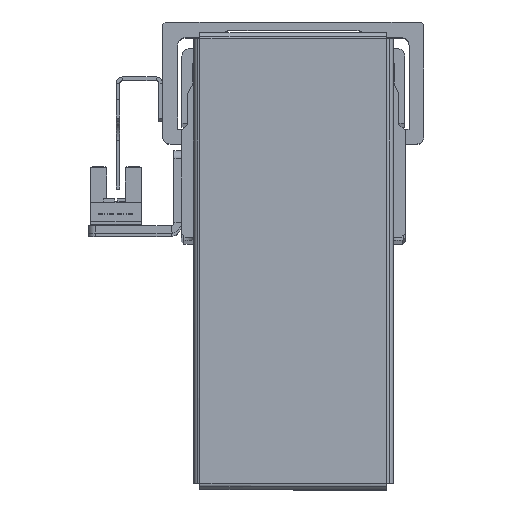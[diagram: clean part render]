
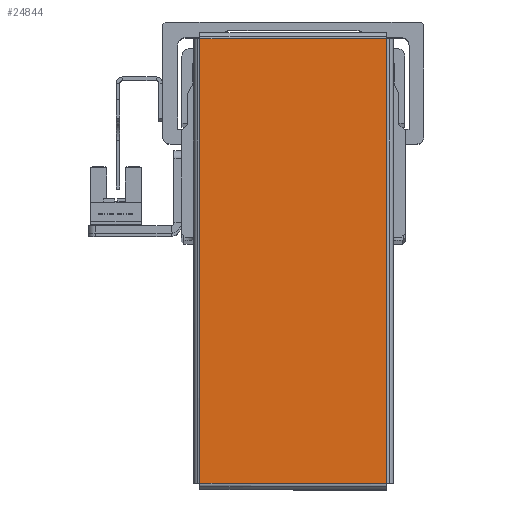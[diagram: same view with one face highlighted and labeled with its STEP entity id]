
A CAD part, top view. The second image highlights one B-rep face of the part: STEP entity #24844.
In plain terms, the highlighted planar face has unit normal (0, 0, 1) as drawn and (0, 0, -1) by its records, which use the part's own axes.
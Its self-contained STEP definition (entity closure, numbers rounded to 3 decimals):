
#2351 = PLANE ( 'NONE',  #31090 ) ;
#2357 = CARTESIAN_POINT ( 'NONE',  ( 0., 0., -1. ) ) ;
#2373 = DIRECTION ( 'NONE',  ( 1., 0., 0. ) ) ;
#2393 = DIRECTION ( 'NONE',  ( 0., 0., 1. ) ) ;
#4229 = DIRECTION ( 'NONE',  ( 0., -1., 0. ) ) ;
#4259 = CARTESIAN_POINT ( 'NONE',  ( 59.513, 25.043, -1. ) ) ;
#4319 = DIRECTION ( 'NONE',  ( -1., 0., 0. ) ) ;
#4326 = CARTESIAN_POINT ( 'NONE',  ( -59.543, 25.013, -1. ) ) ;
#4332 = DIRECTION ( 'NONE',  ( 1., 0., 0. ) ) ;
#4344 = CARTESIAN_POINT ( 'NONE',  ( 59.543, -25.013, -1. ) ) ;
#4881 = EDGE_LOOP ( 'NONE', ( #21047, #21021, #21010, #20996 ) ) ;
#9881 = VERTEX_POINT ( 'NONE', #22754 ) ;
#9884 = VERTEX_POINT ( 'NONE', #22792 ) ;
#9887 = VERTEX_POINT ( 'NONE', #22785 ) ;
#9946 = VERTEX_POINT ( 'NONE', #22814 ) ;
#11700 = FACE_OUTER_BOUND ( 'NONE', #4881, .T. ) ;
#17684 = VECTOR ( 'NONE', #18140, 1000. ) ;
#17703 = LINE ( 'NONE', #4326, #17756 ) ;
#17716 = LINE ( 'NONE', #4259, #17728 ) ;
#17724 = LINE ( 'NONE', #18133, #17684 ) ;
#17728 = VECTOR ( 'NONE', #4229, 1000. ) ;
#17756 = VECTOR ( 'NONE', #4332, 1000. ) ;
#17772 = LINE ( 'NONE', #4344, #17827 ) ;
#17827 = VECTOR ( 'NONE', #4319, 1000. ) ;
#18133 = CARTESIAN_POINT ( 'NONE',  ( -59.513, -25.043, -1. ) ) ;
#18140 = DIRECTION ( 'NONE',  ( 0., 1., 0. ) ) ;
#20996 = ORIENTED_EDGE ( 'NONE', *, *, #28295, .T. ) ;
#21010 = ORIENTED_EDGE ( 'NONE', *, *, #28256, .T. ) ;
#21021 = ORIENTED_EDGE ( 'NONE', *, *, #28306, .T. ) ;
#21047 = ORIENTED_EDGE ( 'NONE', *, *, #28269, .T. ) ;
#22754 = CARTESIAN_POINT ( 'NONE',  ( 59.513, 25.013, -1. ) ) ;
#22785 = CARTESIAN_POINT ( 'NONE',  ( -59.513, 25.013, -1. ) ) ;
#22792 = CARTESIAN_POINT ( 'NONE',  ( 59.513, -25.013, -1. ) ) ;
#22814 = CARTESIAN_POINT ( 'NONE',  ( -59.513, -25.013, -1. ) ) ;
#24844 = ADVANCED_FACE ( 'NONE', ( #11700 ), #2351, .F. ) ;
#28256 = EDGE_CURVE ( 'NONE', #9946, #9887, #17724, .T. ) ;
#28269 = EDGE_CURVE ( 'NONE', #9881, #9884, #17716, .T. ) ;
#28295 = EDGE_CURVE ( 'NONE', #9887, #9881, #17703, .T. ) ;
#28306 = EDGE_CURVE ( 'NONE', #9884, #9946, #17772, .T. ) ;
#31090 = AXIS2_PLACEMENT_3D ( 'NONE', #2357, #2393, #2373 ) ;
